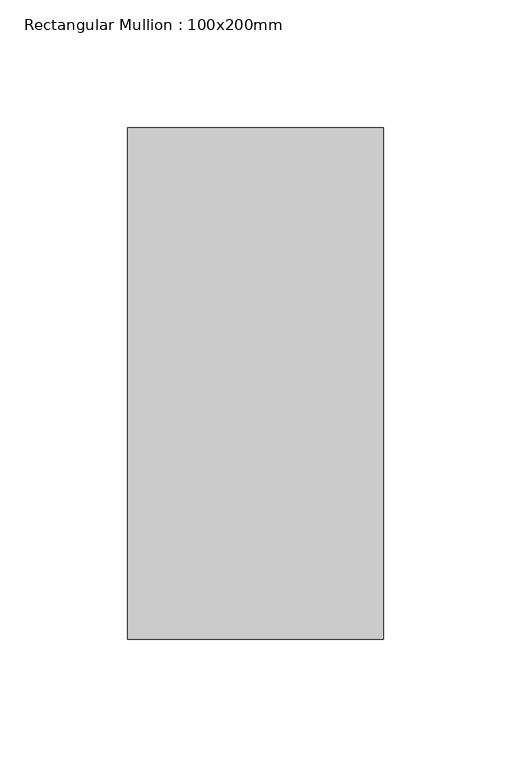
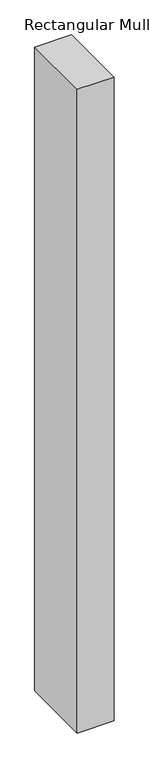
"""IFC4 building model written with IfcOpenShell, lengths in millimetres: member geometry, Rectangular Mullion : 100x200mm."""

from ifc_helpers import new_model, si_unit, frame, origin, place, context, project, spatial, polyline, outline, extrude, source, transform, mapped, element, save


def rectangular_mullion_100x200mm_75edd31d(model_context):
    return source(origin(), model_context, "Body", "SweptSolid", [
        extrude(outline(polyline([(0.0, 100.0), (0.0, -100.0), (-100.0, -100.0), (-100.0, 100.0), (0.0, 100.0)])), frame((0.0, 0.0, -1849.9997488), z_axis=(0.0, 0.0, 1.0), x_axis=(1.0, 0.0, 0.0)), (0.0, 0.0, 1.0), 1849.9997488),
    ])


if __name__ == "__main__":
    model = new_model("IFC4")
    model_context = context("Model", 3, world=origin())
    ifc_project = project(units=[si_unit("LENGTHUNIT", "METRE", prefix="MILLI")], contexts=[model_context])
    site = spatial("IfcSite", under=ifc_project)
    building = spatial("IfcBuilding", under=site)
    placement = place(None, origin())
    rectangular_mullion_100x200mm_shape = rectangular_mullion_100x200mm_75edd31d(model_context)
    element("IfcMember", 1, ObjectType="Rectangular Mullion : 100x200mm", at=placement, inside=building, context=model_context, shape_type="MappedRepresentation", body=[
        mapped(rectangular_mullion_100x200mm_shape, transform((0.0, 0.0, 0.0), x_axis=(1.0, 0.0, 0.0), y_axis=(0.0, 1.0, 0.0), z_axis=(0.0, 0.0, 1.0))),
    ])
    save(model, "model.ifc")
